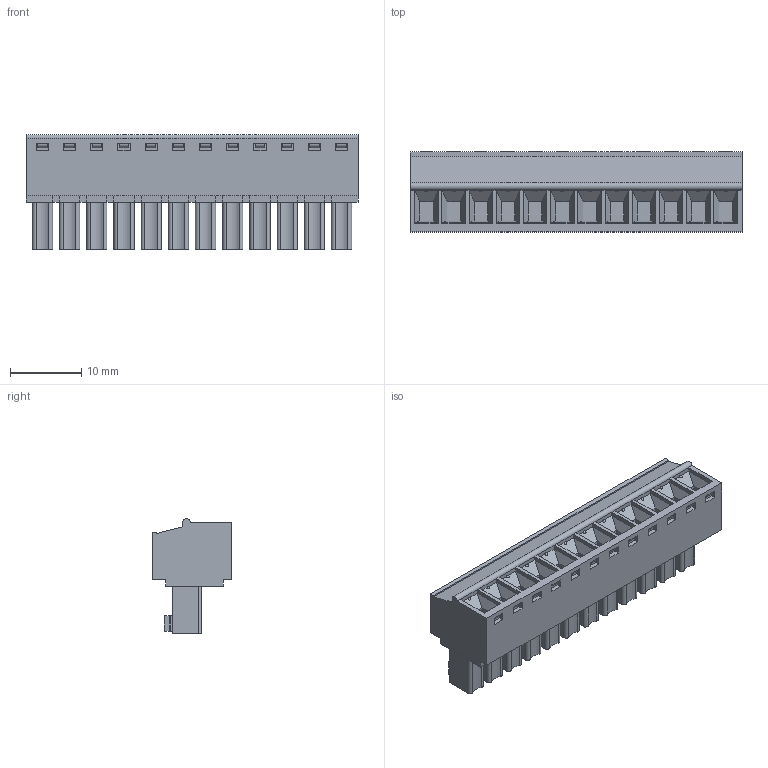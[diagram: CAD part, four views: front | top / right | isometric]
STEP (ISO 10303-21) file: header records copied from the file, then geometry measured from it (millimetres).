
FILE_DESCRIPTION(('FreeCAD Model'),'2;1');
FILE_NAME('Open CASCADE Shape Model','2023-05-24T15:42:24',('Author'),( ''),'Open CASCADE STEP processor 7.6','FreeCAD','Unknown');
FILE_SCHEMA(('AUTOMOTIVE_DESIGN { 1 0 10303 214 1 1 1 1 }'));
Products named in the file (1): BR7F2-12
Bounding box: 46.51 x 11.2 x 16.1 mm (x, y, z)
Volume: 4620.2 mm3; surface area: 4400.8 mm2
Topology: 1 solids, 1 shells, 1069 faces, 2591 edges, 1608 vertices
Faces by surface type: plane 636, cylinder 241, cone 120, torus 48, sphere 24
Entity records: 69667 total; most frequent: CARTESIAN_POINT 17097, DIRECTION 10078, LINE 6097, VECTOR 6097, ORIENTED_EDGE 5134, PCURVE 5134, DEFINITIONAL_REPRESENTATION 5134, EDGE_CURVE 2567
